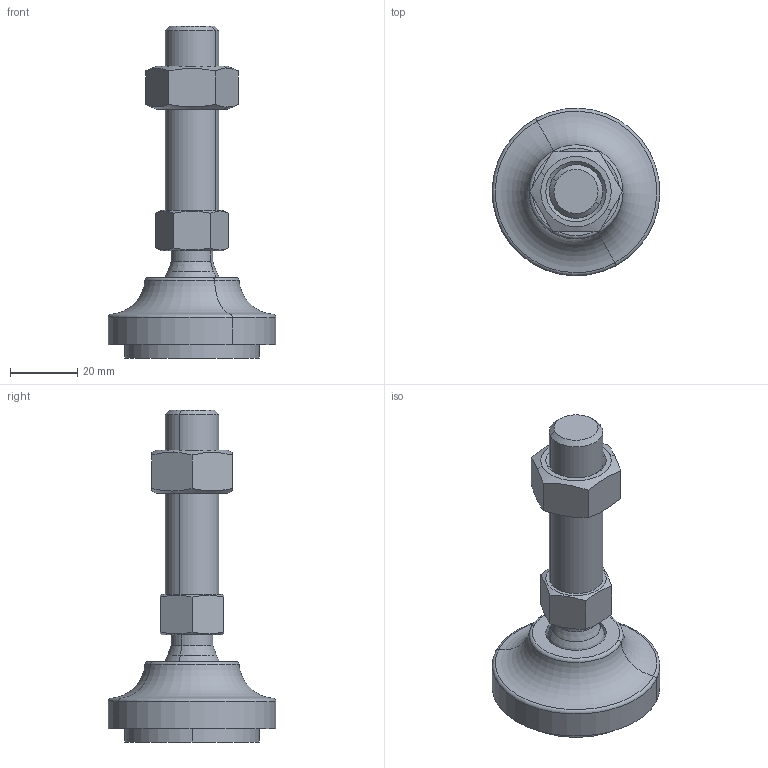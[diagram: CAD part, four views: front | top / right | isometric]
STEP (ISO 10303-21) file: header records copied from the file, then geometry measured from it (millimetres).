
FILE_DESCRIPTION(('CATIA V5 STEP Exchange'),'2;1');
FILE_NAME('C:\Users\ALI OZGUN\Desktop\alhan\saplama2\560501610AV.stp','2017-09-21T10:29:26+00:00',('none'),('none'),'CATIA Version 5 Release 21 GA (IN-10)','CATIA V5 STEP AP203','none');
FILE_SCHEMA(('CONFIG_CONTROL_DESIGN'));
Length unit declared in the file: millimetre
Products named in the file (1): 560501610AV
Bounding box: 49.99 x 49.99 x 99 mm (x, y, z)
Volume: 51065.8 mm3; surface area: 17614.1 mm2
Topology: 4 solids, 4 shells, 64 faces, 142 edges, 87 vertices
Faces by surface type: plane 22, cylinder 16, cone 16, torus 6, revolution 2, sphere 2
Entity records: 1931 total; most frequent: CARTESIAN_POINT 623, ORIENTED_EDGE 280, DIRECTION 198, EDGE_CURVE 140, AXIS2_PLACEMENT_3D 107, VERTEX_POINT 87, EDGE_LOOP 71, ADVANCED_FACE 64
